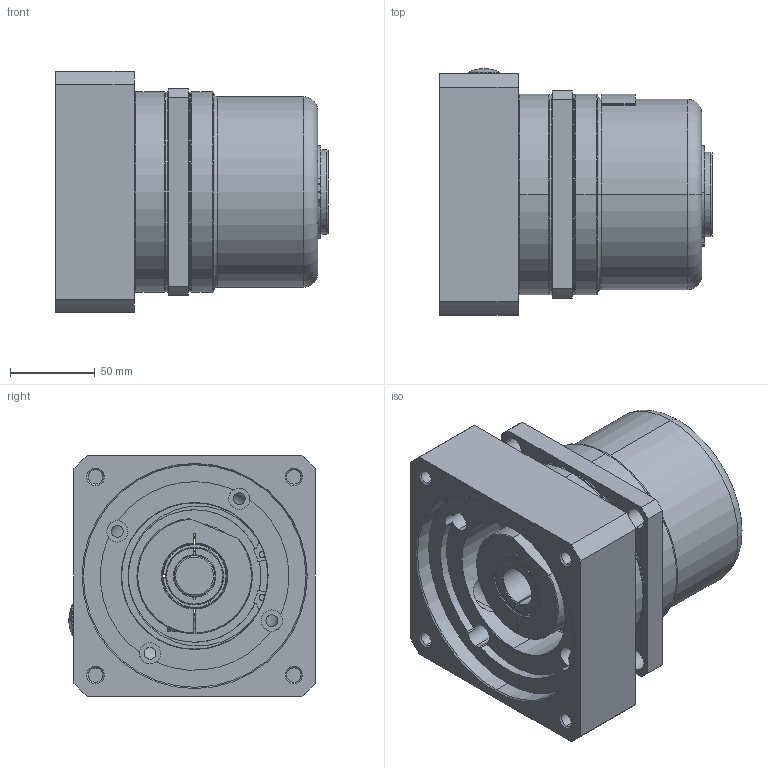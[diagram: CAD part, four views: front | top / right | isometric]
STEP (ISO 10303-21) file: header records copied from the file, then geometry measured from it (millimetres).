
FILE_DESCRIPTION (( 'STEP AP214' ), '1' );
FILE_NAME ('PL-030-0RR-FFF-MMM-F-LL-XXX-BXX-DDCC.STEP', '2019-10-24T15:10:29', ( '' ), ( '' ), 'SwSTEP 2.0', 'SolidWorks 2019', '' );
FILE_SCHEMA (( 'AUTOMOTIVE_DESIGN' ));
Length unit declared in the file: millimetre
Products named in the file (1): PL-030-0RR-FFF-MMM-F-LL-XXX-BXX-DDCC
Bounding box: 160.2 x 145.1 x 142 mm (x, y, z)
Surface area: 163223.3 mm2 (no closed solid volume)
Topology: 0 solids, 17 shells, 285 faces, 844 edges, 578 vertices
Faces by surface type: cylinder 115, cone 70, plane 67, torus 31, sphere 2
Entity records: 13261 total; most frequent: CARTESIAN_POINT 2398, DIRECTION 1723, ORIENTED_EDGE 1433, EDGE_CURVE 844, AXIS2_PLACEMENT_3D 698, VERTEX_POINT 578, CIRCLE 412, EDGE_LOOP 334
